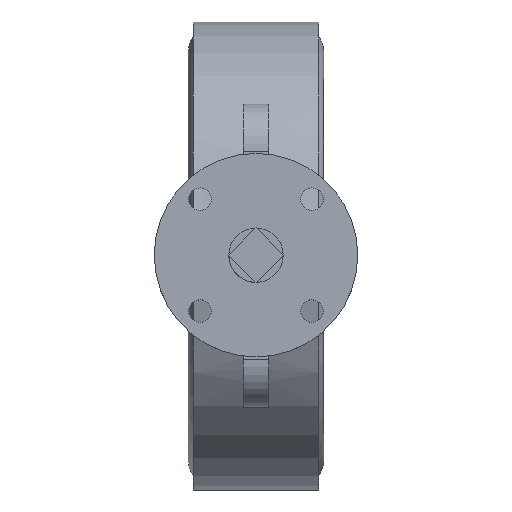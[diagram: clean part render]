
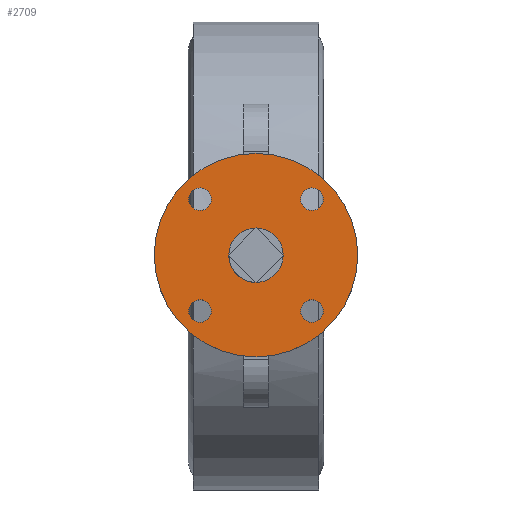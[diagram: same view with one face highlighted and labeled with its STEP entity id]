
A CAD part, top view. The second image highlights one B-rep face of the part: STEP entity #2709.
In plain terms, the highlighted planar face has unit normal (0, 0, 1).
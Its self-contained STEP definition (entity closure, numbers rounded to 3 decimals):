
#2709=ADVANCED_FACE('',(#5348,#5350,#5352,#5354,#5356,#5358),#5360,.T.);
#5348=FACE_BOUND('',#5349,.T.);
#5349=EDGE_LOOP('',(#8360));
#5350=FACE_BOUND('',#5351,.T.);
#5351=EDGE_LOOP('',(#8361));
#5352=FACE_BOUND('',#5353,.T.);
#5353=EDGE_LOOP('',(#8362));
#5354=FACE_BOUND('',#5355,.T.);
#5355=EDGE_LOOP('',(#8363));
#5356=FACE_BOUND('',#5357,.T.);
#5357=EDGE_LOOP('',(#8364));
#5358=FACE_BOUND('',#5359,.T.);
#5359=EDGE_LOOP('',(#8365));
#5360=PLANE('',#5361);
#5361=AXIS2_PLACEMENT_3D('',#5362,#5363,#5364);
#5362=CARTESIAN_POINT('',(0.,0.,210.));
#5363=DIRECTION('',(0.,0.,1.));
#5364=DIRECTION('',(0.,-1.,0.));
#8360=ORIENTED_EDGE('',*,*,#9476,.T.);
#8361=ORIENTED_EDGE('',*,*,#9557,.T.);
#8362=ORIENTED_EDGE('',*,*,#9477,.T.);
#8363=ORIENTED_EDGE('',*,*,#9478,.T.);
#8364=ORIENTED_EDGE('',*,*,#9479,.T.);
#8365=ORIENTED_EDGE('',*,*,#9480,.T.);
#9476=EDGE_CURVE('',#11112,#11112,#11113,.T.);
#9477=EDGE_CURVE('',#11114,#11114,#11115,.F.);
#9478=EDGE_CURVE('',#11116,#11116,#11117,.F.);
#9479=EDGE_CURVE('',#11118,#11118,#11119,.F.);
#9480=EDGE_CURVE('',#11120,#11120,#11121,.F.);
#9557=EDGE_CURVE('',#11237,#11237,#11238,.F.);
#11112=VERTEX_POINT('',#15182);
#11113=CIRCLE('',#15183,45.);
#11114=VERTEX_POINT('',#15187);
#11115=CIRCLE('',#15188,5.);
#11116=VERTEX_POINT('',#15192);
#11117=CIRCLE('',#15193,5.);
#11118=VERTEX_POINT('',#15197);
#11119=CIRCLE('',#15198,5.);
#11120=VERTEX_POINT('',#15202);
#11121=CIRCLE('',#15203,5.);
#11237=VERTEX_POINT('',#15600);
#11238=CIRCLE('',#15601,12.021);
#15182=CARTESIAN_POINT('',(-45.,0.,210.));
#15183=AXIS2_PLACEMENT_3D('',#15184,#15185,#15186);
#15184=CARTESIAN_POINT('',(0.,0.,210.));
#15185=DIRECTION('',(0.,0.,1.));
#15186=DIRECTION('',(-1.,0.,0.));
#15187=CARTESIAN_POINT('',(-29.749,-24.749,210.));
#15188=AXIS2_PLACEMENT_3D('',#15189,#15190,#15191);
#15189=CARTESIAN_POINT('',(-24.749,-24.749,210.));
#15190=DIRECTION('',(0.,0.,1.));
#15191=DIRECTION('',(-1.,0.,0.));
#15192=CARTESIAN_POINT('',(24.749,-29.749,210.));
#15193=AXIS2_PLACEMENT_3D('',#15194,#15195,#15196);
#15194=CARTESIAN_POINT('',(24.749,-24.749,210.));
#15195=DIRECTION('',(0.,0.,1.));
#15196=DIRECTION('',(0.,-1.,0.));
#15197=CARTESIAN_POINT('',(29.749,24.749,210.));
#15198=AXIS2_PLACEMENT_3D('',#15199,#15200,#15201);
#15199=CARTESIAN_POINT('',(24.749,24.749,210.));
#15200=DIRECTION('',(0.,0.,1.));
#15201=DIRECTION('',(1.,0.,0.));
#15202=CARTESIAN_POINT('',(-24.749,29.749,210.));
#15203=AXIS2_PLACEMENT_3D('',#15204,#15205,#15206);
#15204=CARTESIAN_POINT('',(-24.749,24.749,210.));
#15205=DIRECTION('',(0.,0.,1.));
#15206=DIRECTION('',(0.,1.,0.));
#15600=CARTESIAN_POINT('',(0.,-12.021,210.));
#15601=AXIS2_PLACEMENT_3D('',#15602,#15603,#15604);
#15602=CARTESIAN_POINT('',(0.,0.,210.));
#15603=DIRECTION('',(0.,0.,1.));
#15604=DIRECTION('',(0.,-1.,0.));
